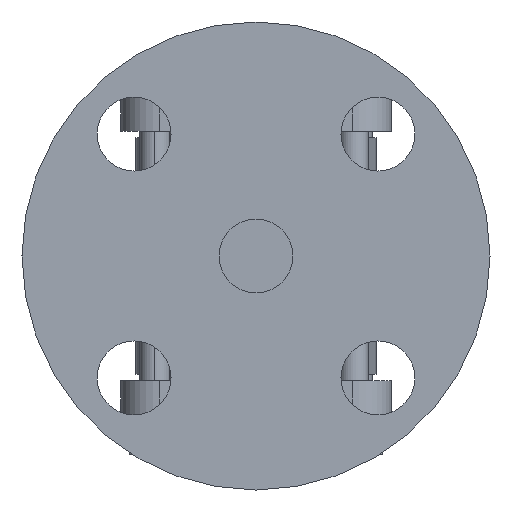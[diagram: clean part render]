
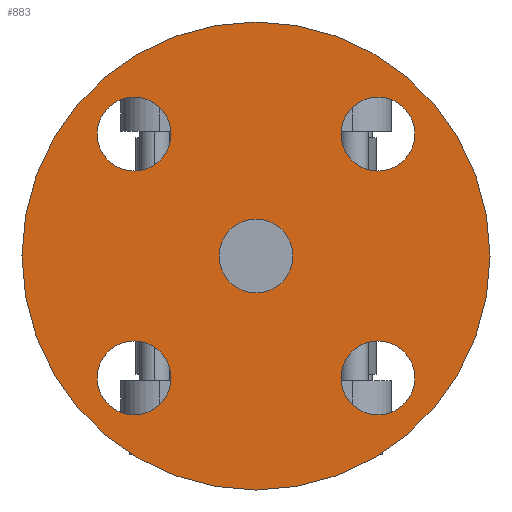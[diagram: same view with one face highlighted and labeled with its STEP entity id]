
A CAD part, left-side view. The second image highlights one B-rep face of the part: STEP entity #883.
In plain terms, the highlighted planar face has unit normal (-1, 0, 0).
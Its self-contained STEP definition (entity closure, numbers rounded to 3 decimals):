
#7 = EDGE_LOOP ( 'NONE', ( #13, #5755 ) ) ;
#13 = ORIENTED_EDGE ( 'NONE', *, *, #6022, .F. ) ;
#205 = CARTESIAN_POINT ( 'NONE',  ( -65., -17.249, 24.749 ) ) ;
#292 = ORIENTED_EDGE ( 'NONE', *, *, #565, .T. ) ;
#317 = VERTEX_POINT ( 'NONE', #1479 ) ;
#327 = VERTEX_POINT ( 'NONE', #2486 ) ;
#353 = DIRECTION ( 'NONE',  ( -1., 0., 0. ) ) ;
#482 = EDGE_LOOP ( 'NONE', ( #2569, #639 ) ) ;
#487 = EDGE_CURVE ( 'NONE', #4851, #867, #6205, .T. ) ;
#562 = VERTEX_POINT ( 'NONE', #2257 ) ;
#563 = VERTEX_POINT ( 'NONE', #2825 ) ;
#565 = EDGE_CURVE ( 'NONE', #2811, #6166, #4466, .T. ) ;
#639 = ORIENTED_EDGE ( 'NONE', *, *, #5378, .F. ) ;
#653 = CIRCLE ( 'NONE', #6222, 7.5 ) ;
#690 = CARTESIAN_POINT ( 'NONE',  ( -65., 0., 0. ) ) ;
#724 = FACE_BOUND ( 'NONE', #2470, .T. ) ;
#867 = VERTEX_POINT ( 'NONE', #205 ) ;
#883 = ADVANCED_FACE ( 'NONE', ( #724, #2147, #5466, #1171, #3098, #5906 ), #4990, .F. ) ;
#884 = ORIENTED_EDGE ( 'NONE', *, *, #903, .F. ) ;
#890 = DIRECTION ( 'NONE',  ( 0., -1., 0. ) ) ;
#903 = EDGE_CURVE ( 'NONE', #1724, #3874, #3062, .T. ) ;
#906 = CARTESIAN_POINT ( 'NONE',  ( -65., -47.5, 0. ) ) ;
#935 = ORIENTED_EDGE ( 'NONE', *, *, #6219, .F. ) ;
#1028 = AXIS2_PLACEMENT_3D ( 'NONE', #2386, #5760, #5287 ) ;
#1127 = DIRECTION ( 'NONE',  ( -1., 0., 0. ) ) ;
#1171 = FACE_BOUND ( 'NONE', #7, .T. ) ;
#1174 = DIRECTION ( 'NONE',  ( 0., 1., 0. ) ) ;
#1326 = AXIS2_PLACEMENT_3D ( 'NONE', #6009, #1610, #4140 ) ;
#1396 = DIRECTION ( 'NONE',  ( 0., 0., -1. ) ) ;
#1400 = CARTESIAN_POINT ( 'NONE',  ( -65., 17.249, 24.749 ) ) ;
#1432 = DIRECTION ( 'NONE',  ( 0., 0., 1. ) ) ;
#1435 = AXIS2_PLACEMENT_3D ( 'NONE', #6204, #5598, #890 ) ;
#1452 = AXIS2_PLACEMENT_3D ( 'NONE', #4999, #5509, #2661 ) ;
#1479 = CARTESIAN_POINT ( 'NONE',  ( -65., 32.249, 24.749 ) ) ;
#1536 = DIRECTION ( 'NONE',  ( -1., 0., 0. ) ) ;
#1562 = EDGE_LOOP ( 'NONE', ( #292, #5326 ) ) ;
#1583 = CARTESIAN_POINT ( 'NONE',  ( -65., 0., 0. ) ) ;
#1608 = CARTESIAN_POINT ( 'NONE',  ( -65., 0., 0. ) ) ;
#1610 = DIRECTION ( 'NONE',  ( -1., 0., 0. ) ) ;
#1696 = EDGE_CURVE ( 'NONE', #3802, #327, #4298, .T. ) ;
#1724 = VERTEX_POINT ( 'NONE', #4760 ) ;
#1855 = AXIS2_PLACEMENT_3D ( 'NONE', #2699, #353, #1878 ) ;
#1878 = DIRECTION ( 'NONE',  ( 0., -1., 0. ) ) ;
#1909 = CARTESIAN_POINT ( 'NONE',  ( -65., -32.249, 24.749 ) ) ;
#2011 = CARTESIAN_POINT ( 'NONE',  ( -65., -24.749, -24.749 ) ) ;
#2054 = AXIS2_PLACEMENT_3D ( 'NONE', #1583, #4484, #4011 ) ;
#2085 = CARTESIAN_POINT ( 'NONE',  ( -65., -24.749, 24.749 ) ) ;
#2092 = EDGE_CURVE ( 'NONE', #6195, #317, #653, .T. ) ;
#2147 = FACE_BOUND ( 'NONE', #2178, .T. ) ;
#2178 = EDGE_LOOP ( 'NONE', ( #5147, #4473 ) ) ;
#2247 = DIRECTION ( 'NONE',  ( 0., -1., 0. ) ) ;
#2257 = CARTESIAN_POINT ( 'NONE',  ( -65., 32.249, -24.749 ) ) ;
#2386 = CARTESIAN_POINT ( 'NONE',  ( -65., 0., 0. ) ) ;
#2470 = EDGE_LOOP ( 'NONE', ( #5514, #4975 ) ) ;
#2474 = AXIS2_PLACEMENT_3D ( 'NONE', #3842, #5764, #1432 ) ;
#2486 = CARTESIAN_POINT ( 'NONE',  ( -65., -17.249, -24.749 ) ) ;
#2569 = ORIENTED_EDGE ( 'NONE', *, *, #1696, .F. ) ;
#2652 = DIRECTION ( 'NONE',  ( 0., 1., 0. ) ) ;
#2661 = DIRECTION ( 'NONE',  ( 0., 1., 0. ) ) ;
#2699 = CARTESIAN_POINT ( 'NONE',  ( -65., 0., 0. ) ) ;
#2811 = VERTEX_POINT ( 'NONE', #906 ) ;
#2825 = CARTESIAN_POINT ( 'NONE',  ( -65., 17.249, -24.749 ) ) ;
#2852 = CIRCLE ( 'NONE', #1435, 7.5 ) ;
#2856 = AXIS2_PLACEMENT_3D ( 'NONE', #4920, #1127, #3973 ) ;
#3037 = CARTESIAN_POINT ( 'NONE',  ( -65., 7.5, 0. ) ) ;
#3062 = CIRCLE ( 'NONE', #2054, 7.5 ) ;
#3098 = FACE_BOUND ( 'NONE', #4838, .T. ) ;
#3293 = CIRCLE ( 'NONE', #6115, 7.5 ) ;
#3302 = DIRECTION ( 'NONE',  ( -1., 0., 0. ) ) ;
#3467 = DIRECTION ( 'NONE',  ( 0., 0., 1. ) ) ;
#3539 = CIRCLE ( 'NONE', #5157, 7.5 ) ;
#3612 = CARTESIAN_POINT ( 'NONE',  ( -65., -32.249, -24.749 ) ) ;
#3641 = DIRECTION ( 'NONE',  ( -1., 0., 0. ) ) ;
#3658 = CIRCLE ( 'NONE', #2856, 7.5 ) ;
#3761 = EDGE_CURVE ( 'NONE', #867, #4851, #3293, .T. ) ;
#3802 = VERTEX_POINT ( 'NONE', #3612 ) ;
#3842 = CARTESIAN_POINT ( 'NONE',  ( -65., -24.749, -24.749 ) ) ;
#3874 = VERTEX_POINT ( 'NONE', #3037 ) ;
#3895 = CARTESIAN_POINT ( 'NONE',  ( -65., 24.749, 24.749 ) ) ;
#3973 = DIRECTION ( 'NONE',  ( 0., 0., -1. ) ) ;
#4011 = DIRECTION ( 'NONE',  ( 0., -1., 0. ) ) ;
#4140 = DIRECTION ( 'NONE',  ( 0., -1., 0. ) ) ;
#4157 = CIRCLE ( 'NONE', #1326, 7.5 ) ;
#4282 = EDGE_CURVE ( 'NONE', #6166, #2811, #4447, .T. ) ;
#4298 = CIRCLE ( 'NONE', #2474, 7.5 ) ;
#4422 = EDGE_CURVE ( 'NONE', #562, #563, #2852, .T. ) ;
#4447 = CIRCLE ( 'NONE', #5267, 47.5 ) ;
#4466 = CIRCLE ( 'NONE', #1855, 47.5 ) ;
#4473 = ORIENTED_EDGE ( 'NONE', *, *, #3761, .F. ) ;
#4484 = DIRECTION ( 'NONE',  ( -1., 0., 0. ) ) ;
#4760 = CARTESIAN_POINT ( 'NONE',  ( -65., -7.5, 0. ) ) ;
#4838 = EDGE_LOOP ( 'NONE', ( #884, #935 ) ) ;
#4851 = VERTEX_POINT ( 'NONE', #1909 ) ;
#4920 = CARTESIAN_POINT ( 'NONE',  ( -65., 24.749, 24.749 ) ) ;
#4975 = ORIENTED_EDGE ( 'NONE', *, *, #5602, .F. ) ;
#4990 = PLANE ( 'NONE',  #5188 ) ;
#4999 = CARTESIAN_POINT ( 'NONE',  ( -65., -24.749, 24.749 ) ) ;
#5055 = CIRCLE ( 'NONE', #1028, 7.5 ) ;
#5147 = ORIENTED_EDGE ( 'NONE', *, *, #487, .F. ) ;
#5157 = AXIS2_PLACEMENT_3D ( 'NONE', #2011, #1536, #3467 ) ;
#5188 = AXIS2_PLACEMENT_3D ( 'NONE', #1608, #6004, #2652 ) ;
#5190 = CARTESIAN_POINT ( 'NONE',  ( -65., 47.5, 0. ) ) ;
#5267 = AXIS2_PLACEMENT_3D ( 'NONE', #690, #6103, #2247 ) ;
#5287 = DIRECTION ( 'NONE',  ( 0., -1., 0. ) ) ;
#5326 = ORIENTED_EDGE ( 'NONE', *, *, #4282, .T. ) ;
#5378 = EDGE_CURVE ( 'NONE', #327, #3802, #3539, .T. ) ;
#5466 = FACE_BOUND ( 'NONE', #482, .T. ) ;
#5509 = DIRECTION ( 'NONE',  ( -1., 0., 0. ) ) ;
#5514 = ORIENTED_EDGE ( 'NONE', *, *, #2092, .F. ) ;
#5598 = DIRECTION ( 'NONE',  ( -1., 0., 0. ) ) ;
#5602 = EDGE_CURVE ( 'NONE', #317, #6195, #3658, .T. ) ;
#5755 = ORIENTED_EDGE ( 'NONE', *, *, #4422, .F. ) ;
#5760 = DIRECTION ( 'NONE',  ( -1., 0., 0. ) ) ;
#5764 = DIRECTION ( 'NONE',  ( -1., 0., 0. ) ) ;
#5906 = FACE_OUTER_BOUND ( 'NONE', #1562, .T. ) ;
#6004 = DIRECTION ( 'NONE',  ( 1., 0., 0. ) ) ;
#6009 = CARTESIAN_POINT ( 'NONE',  ( -65., 24.749, -24.749 ) ) ;
#6022 = EDGE_CURVE ( 'NONE', #563, #562, #4157, .T. ) ;
#6103 = DIRECTION ( 'NONE',  ( -1., 0., 0. ) ) ;
#6115 = AXIS2_PLACEMENT_3D ( 'NONE', #2085, #3641, #1174 ) ;
#6166 = VERTEX_POINT ( 'NONE', #5190 ) ;
#6195 = VERTEX_POINT ( 'NONE', #1400 ) ;
#6204 = CARTESIAN_POINT ( 'NONE',  ( -65., 24.749, -24.749 ) ) ;
#6205 = CIRCLE ( 'NONE', #1452, 7.5 ) ;
#6219 = EDGE_CURVE ( 'NONE', #3874, #1724, #5055, .T. ) ;
#6222 = AXIS2_PLACEMENT_3D ( 'NONE', #3895, #3302, #1396 ) ;
